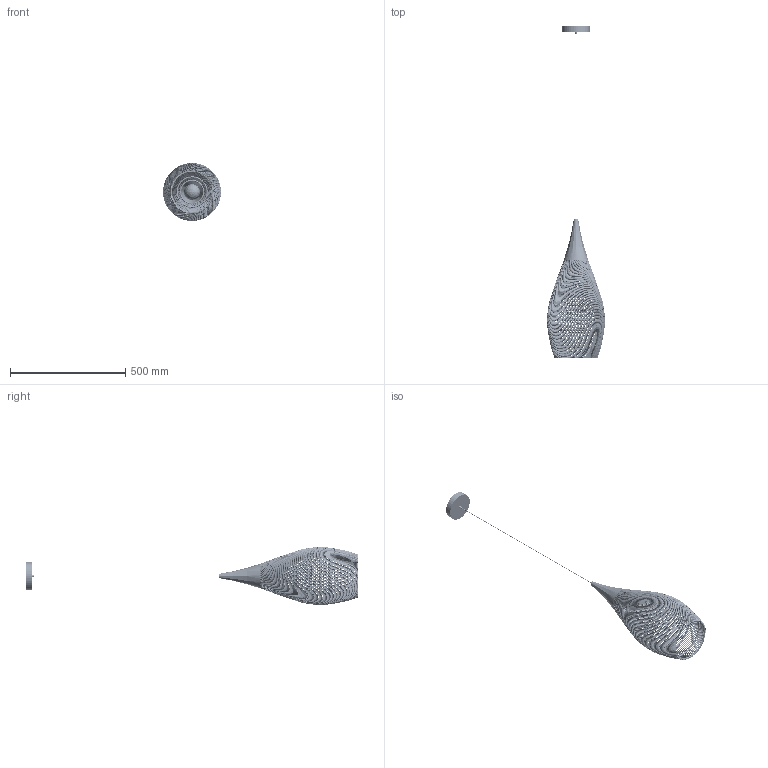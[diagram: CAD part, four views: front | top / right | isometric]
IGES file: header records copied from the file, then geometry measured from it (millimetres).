
Start section: SolidWorks IGES file using analytic representation for surfaces
Global section: file name: F:\燠隴矨\3D\2024-12堎\Braided Rattan Pendant Lamp-Model D-D25xH50cm .IGS,  1; native system: 5HSolidWorks 2022; preprocessor: SolidWorks 2022; author: MyPC; date: 241202.213859; units: millimetre
Bounding box: 251.37 x 1442.56 x 251.37 mm (x, y, z)
Surface area: 900017.9 mm2 (no closed solid volume)
Topology: 0 solids, 0 shells, 539 faces, 9349 edges, 9349 vertices
Faces by surface type: bspline 517, revolution 22
